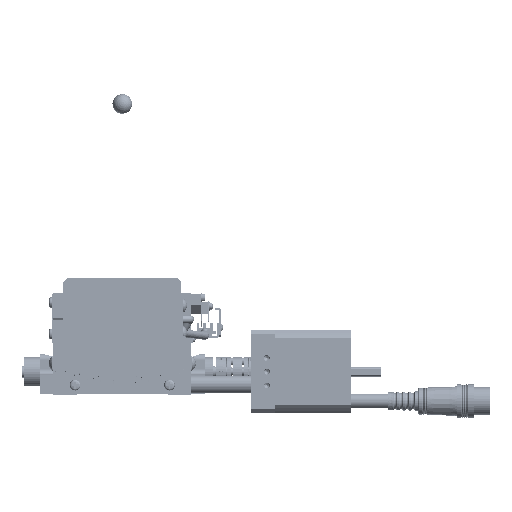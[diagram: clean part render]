
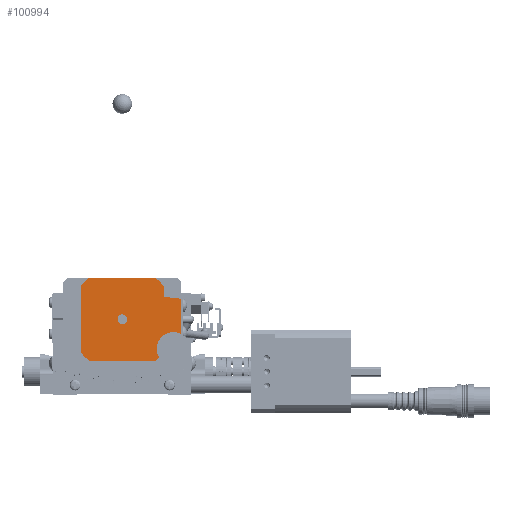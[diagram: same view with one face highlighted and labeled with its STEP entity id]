
A CAD part, front view. The second image highlights one B-rep face of the part: STEP entity #100994.
In plain terms, the highlighted planar face has unit normal (0, -1, 0) as drawn and (1, 0, 0) by its records, which use the part's own axes.
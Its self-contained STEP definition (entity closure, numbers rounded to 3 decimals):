
#2771 = CARTESIAN_POINT ( 'NONE',  ( 24.6, -27., 65.104 ) ) ;
#3198 = DIRECTION ( 'NONE',  ( 0., -0.993, -0.122 ) ) ;
#3262 = CIRCLE ( 'NONE', #58602, 27. ) ;
#3856 = VERTEX_POINT ( 'NONE', #114399 ) ;
#4154 = PLANE ( 'NONE',  #114757 ) ;
#9503 = VERTEX_POINT ( 'NONE', #148988 ) ;
#10602 = EDGE_CURVE ( 'NONE', #9503, #108632, #129988, .T. ) ;
#14986 = VECTOR ( 'NONE', #118200, 1000. ) ;
#15242 = LINE ( 'NONE', #86800, #118920 ) ;
#15583 = EDGE_LOOP ( 'NONE', ( #100588, #29532, #121862, #98010, #51661, #23561, #144446, #94621, #124928, #92580, #107191, #131243, #43699, #124438 ) ) ;
#16047 = VERTEX_POINT ( 'NONE', #34538 ) ;
#17460 = VERTEX_POINT ( 'NONE', #39704 ) ;
#17954 = DIRECTION ( 'NONE',  ( -1., 0., 0. ) ) ;
#18013 = DIRECTION ( 'NONE',  ( -1., 0., 0. ) ) ;
#19428 = VECTOR ( 'NONE', #151606, 1000. ) ;
#21086 = DIRECTION ( 'NONE',  ( 0., 1., 0. ) ) ;
#21982 = EDGE_CURVE ( 'NONE', #16047, #69814, #15242, .T. ) ;
#23561 = ORIENTED_EDGE ( 'NONE', *, *, #29250, .F. ) ;
#24391 = DIRECTION ( 'NONE',  ( 0., 0.629, 0.778 ) ) ;
#27525 = DIRECTION ( 'NONE',  ( 0., -0.8, 0.6 ) ) ;
#27705 = VERTEX_POINT ( 'NONE', #136008 ) ;
#28247 = CARTESIAN_POINT ( 'NONE',  ( 24.6, -4., 75.104 ) ) ;
#28249 = LINE ( 'NONE', #28247, #91987 ) ;
#29008 = EDGE_CURVE ( 'NONE', #127120, #27705, #77774, .T. ) ;
#29250 = EDGE_CURVE ( 'NONE', #32041, #134401, #67366, .T. ) ;
#29532 = ORIENTED_EDGE ( 'NONE', *, *, #21982, .F. ) ;
#29608 = EDGE_CURVE ( 'NONE', #146090, #109330, #112507, .T. ) ;
#30205 = DIRECTION ( 'NONE',  ( 0., -0.778, 0.629 ) ) ;
#32041 = VERTEX_POINT ( 'NONE', #77339 ) ;
#32167 = VECTOR ( 'NONE', #46645, 1000. ) ;
#33050 = EDGE_CURVE ( 'NONE', #108632, #16047, #51719, .T. ) ;
#34538 = CARTESIAN_POINT ( 'NONE',  ( 24.6, -46., 46.633 ) ) ;
#36888 = CARTESIAN_POINT ( 'NONE',  ( 24.6, -41.971, 84.604 ) ) ;
#38099 = LINE ( 'NONE', #106900, #32167 ) ;
#38418 = VERTEX_POINT ( 'NONE', #45780 ) ;
#38680 = DIRECTION ( 'NONE',  ( 0., -1., 0. ) ) ;
#39704 = CARTESIAN_POINT ( 'NONE',  ( 24.6, -41.971, 84.604 ) ) ;
#41486 = DIRECTION ( 'NONE',  ( -1., 0., 0. ) ) ;
#42854 = VERTEX_POINT ( 'NONE', #88591 ) ;
#43699 = ORIENTED_EDGE ( 'NONE', *, *, #29008, .F. ) ;
#45164 = CARTESIAN_POINT ( 'NONE',  ( 24.6, 5., 73.556 ) ) ;
#45329 = AXIS2_PLACEMENT_3D ( 'NONE', #99784, #99240, #24391 ) ;
#45780 = CARTESIAN_POINT ( 'NONE',  ( 24.6, 5., 53.651 ) ) ;
#46645 = DIRECTION ( 'NONE',  ( 0., 0., -1. ) ) ;
#48505 = EDGE_CURVE ( 'NONE', #109330, #38418, #99325, .T. ) ;
#48598 = EDGE_CURVE ( 'NONE', #3856, #32041, #153040, .T. ) ;
#49359 = VECTOR ( 'NONE', #3198, 1000. ) ;
#51661 = ORIENTED_EDGE ( 'NONE', *, *, #142369, .F. ) ;
#51719 = CIRCLE ( 'NONE', #73715, 27. ) ;
#51839 = EDGE_LOOP ( 'NONE', ( #100039, #147465 ) ) ;
#54148 = CARTESIAN_POINT ( 'NONE',  ( 24.6, -4., 46.633 ) ) ;
#55314 = CARTESIAN_POINT ( 'NONE',  ( 24.6, -25., 63.604 ) ) ;
#55524 = DIRECTION ( 'NONE',  ( 0., 0.993, -0.122 ) ) ;
#58602 = AXIS2_PLACEMENT_3D ( 'NONE', #144038, #18013, #117872 ) ;
#59639 = FACE_OUTER_BOUND ( 'NONE', #15583, .T. ) ;
#60256 = EDGE_CURVE ( 'NONE', #42854, #62713, #144590, .T. ) ;
#60904 = DIRECTION ( 'NONE',  ( 0., 1., 0. ) ) ;
#62713 = VERTEX_POINT ( 'NONE', #64714 ) ;
#64714 = CARTESIAN_POINT ( 'NONE',  ( 24.6, -27., 62.104 ) ) ;
#65356 = EDGE_CURVE ( 'NONE', #69814, #17460, #117869, .T. ) ;
#66815 = CARTESIAN_POINT ( 'NONE',  ( 24.6, 4.561, 53.155 ) ) ;
#66982 = CARTESIAN_POINT ( 'NONE',  ( 24.6, 4.5, 73.556 ) ) ;
#67366 = LINE ( 'NONE', #93908, #124907 ) ;
#69814 = VERTEX_POINT ( 'NONE', #153326 ) ;
#70051 = AXIS2_PLACEMENT_3D ( 'NONE', #66982, #117138, #80891 ) ;
#70381 = EDGE_CURVE ( 'NONE', #152343, #146090, #28249, .T. ) ;
#70853 = VECTOR ( 'NONE', #60904, 1000. ) ;
#71363 = DIRECTION ( 'NONE',  ( -1., 0., 0. ) ) ;
#73715 = AXIS2_PLACEMENT_3D ( 'NONE', #154461, #129333, #103720 ) ;
#77339 = CARTESIAN_POINT ( 'NONE',  ( 24.6, -4., 52.104 ) ) ;
#77774 = CIRCLE ( 'NONE', #45329, 27. ) ;
#80891 = DIRECTION ( 'NONE',  ( 0., 0.122, 0.993 ) ) ;
#81698 = CARTESIAN_POINT ( 'NONE',  ( 24.6, 29.051, 113.155 ) ) ;
#86800 = CARTESIAN_POINT ( 'NONE',  ( 24.6, -46., 46.633 ) ) ;
#88591 = CARTESIAN_POINT ( 'NONE',  ( 24.6, -27., 65.104 ) ) ;
#91987 = VECTOR ( 'NONE', #55524, 1000. ) ;
#92580 = ORIENTED_EDGE ( 'NONE', *, *, #29608, .F. ) ;
#92828 = EDGE_CURVE ( 'NONE', #27705, #152343, #38099, .T. ) ;
#93908 = CARTESIAN_POINT ( 'NONE',  ( 24.6, -4., 52.104 ) ) ;
#94621 = ORIENTED_EDGE ( 'NONE', *, *, #118533, .F. ) ;
#96853 = CARTESIAN_POINT ( 'NONE',  ( 24.6, -4., 75.104 ) ) ;
#97560 = CARTESIAN_POINT ( 'NONE',  ( 24.6, 4.5, 53.651 ) ) ;
#98010 = ORIENTED_EDGE ( 'NONE', *, *, #10602, .F. ) ;
#98404 = AXIS2_PLACEMENT_3D ( 'NONE', #55314, #17954, #30205 ) ;
#99240 = DIRECTION ( 'NONE',  ( -1., 0., 0. ) ) ;
#99325 = LINE ( 'NONE', #128653, #19428 ) ;
#99784 = CARTESIAN_POINT ( 'NONE',  ( 24.6, -25., 63.604 ) ) ;
#100039 = ORIENTED_EDGE ( 'NONE', *, *, #106089, .T. ) ;
#100131 = CARTESIAN_POINT ( 'NONE',  ( 24.6, 4.561, 74.053 ) ) ;
#100588 = ORIENTED_EDGE ( 'NONE', *, *, #65356, .F. ) ;
#100994 = ADVANCED_FACE ( 'NONE', ( #59639, #143338 ), #4154, .F. ) ;
#102811 = LINE ( 'NONE', #36888, #70853 ) ;
#103399 = CARTESIAN_POINT ( 'NONE',  ( 24.6, -25., 63.604 ) ) ;
#103686 = CIRCLE ( 'NONE', #137729, 2.5 ) ;
#103720 = DIRECTION ( 'NONE',  ( 0., -0.629, -0.778 ) ) ;
#103962 = AXIS2_PLACEMENT_3D ( 'NONE', #97560, #71363, #21086 ) ;
#105273 = CARTESIAN_POINT ( 'NONE',  ( 24.6, -8.029, 84.604 ) ) ;
#106089 = EDGE_CURVE ( 'NONE', #42854, #62713, #103686, .T. ) ;
#106900 = CARTESIAN_POINT ( 'NONE',  ( 24.6, -4., 80.574 ) ) ;
#107191 = ORIENTED_EDGE ( 'NONE', *, *, #70381, .F. ) ;
#107301 = DIRECTION ( 'NONE',  ( 0., 0., -1. ) ) ;
#108632 = VERTEX_POINT ( 'NONE', #111423 ) ;
#109330 = VERTEX_POINT ( 'NONE', #45164 ) ;
#111423 = CARTESIAN_POINT ( 'NONE',  ( 24.6, -41.971, 42.604 ) ) ;
#112507 = CIRCLE ( 'NONE', #70051, 0.5 ) ;
#114399 = CARTESIAN_POINT ( 'NONE',  ( 24.6, 4.561, 53.155 ) ) ;
#114757 = AXIS2_PLACEMENT_3D ( 'NONE', #81698, #41486, #107301 ) ;
#117138 = DIRECTION ( 'NONE',  ( -1., 0., 0. ) ) ;
#117869 = CIRCLE ( 'NONE', #98404, 27. ) ;
#117872 = DIRECTION ( 'NONE',  ( 0., 0.778, -0.629 ) ) ;
#118200 = DIRECTION ( 'NONE',  ( 0., 0., -1. ) ) ;
#118533 = EDGE_CURVE ( 'NONE', #38418, #3856, #163368, .T. ) ;
#118920 = VECTOR ( 'NONE', #139671, 1000. ) ;
#121862 = ORIENTED_EDGE ( 'NONE', *, *, #33050, .F. ) ;
#124438 = ORIENTED_EDGE ( 'NONE', *, *, #147519, .F. ) ;
#124907 = VECTOR ( 'NONE', #136663, 1000. ) ;
#124928 = ORIENTED_EDGE ( 'NONE', *, *, #48505, .F. ) ;
#127120 = VERTEX_POINT ( 'NONE', #105273 ) ;
#128653 = CARTESIAN_POINT ( 'NONE',  ( 24.6, 5., 73.556 ) ) ;
#128983 = CARTESIAN_POINT ( 'NONE',  ( 24.6, -8.029, 42.604 ) ) ;
#129333 = DIRECTION ( 'NONE',  ( -1., 0., 0. ) ) ;
#129988 = LINE ( 'NONE', #128983, #133932 ) ;
#131243 = ORIENTED_EDGE ( 'NONE', *, *, #92828, .F. ) ;
#133932 = VECTOR ( 'NONE', #38680, 1000. ) ;
#134401 = VERTEX_POINT ( 'NONE', #54148 ) ;
#136008 = CARTESIAN_POINT ( 'NONE',  ( 24.6, -4., 80.574 ) ) ;
#136663 = DIRECTION ( 'NONE',  ( 0., 0., -1. ) ) ;
#137729 = AXIS2_PLACEMENT_3D ( 'NONE', #103399, #141869, #27525 ) ;
#139671 = DIRECTION ( 'NONE',  ( 0., 0., 1. ) ) ;
#141869 = DIRECTION ( 'NONE',  ( -1., 0., 0. ) ) ;
#142369 = EDGE_CURVE ( 'NONE', #134401, #9503, #3262, .T. ) ;
#143338 = FACE_BOUND ( 'NONE', #51839, .T. ) ;
#144038 = CARTESIAN_POINT ( 'NONE',  ( 24.6, -25., 63.604 ) ) ;
#144446 = ORIENTED_EDGE ( 'NONE', *, *, #48598, .F. ) ;
#144590 = LINE ( 'NONE', #2771, #14986 ) ;
#146090 = VERTEX_POINT ( 'NONE', #100131 ) ;
#147465 = ORIENTED_EDGE ( 'NONE', *, *, #60256, .F. ) ;
#147519 = EDGE_CURVE ( 'NONE', #17460, #127120, #102811, .T. ) ;
#148988 = CARTESIAN_POINT ( 'NONE',  ( 24.6, -8.029, 42.604 ) ) ;
#151606 = DIRECTION ( 'NONE',  ( 0., 0., -1. ) ) ;
#152343 = VERTEX_POINT ( 'NONE', #96853 ) ;
#153040 = LINE ( 'NONE', #66815, #49359 ) ;
#153326 = CARTESIAN_POINT ( 'NONE',  ( 24.6, -46., 80.574 ) ) ;
#154461 = CARTESIAN_POINT ( 'NONE',  ( 24.6, -25., 63.604 ) ) ;
#163368 = CIRCLE ( 'NONE', #103962, 0.5 ) ;
